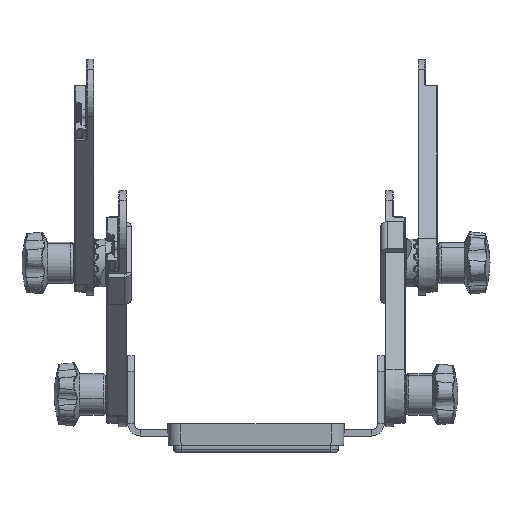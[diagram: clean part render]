
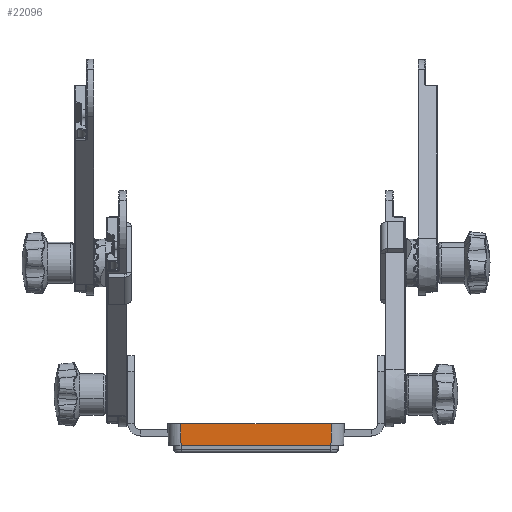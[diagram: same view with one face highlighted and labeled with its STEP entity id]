
A CAD part, front view. The second image highlights one B-rep face of the part: STEP entity #22096.
In plain terms, the highlighted planar face has unit normal (0, -1, -0.018).
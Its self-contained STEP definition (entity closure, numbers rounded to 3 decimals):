
#2856 = LINE ( 'NONE', #20108, #33702 ) ;
#9669 = EDGE_CURVE ( 'NONE', #48097, #70745, #28018, .T. ) ;
#16558 = VERTEX_POINT ( 'NONE', #51509 ) ;
#18184 = CARTESIAN_POINT ( 'NONE',  ( -23.383, -37.382, 2.25 ) ) ;
#18476 = DIRECTION ( 'NONE',  ( 0., -1., -0.017 ) ) ;
#20108 = CARTESIAN_POINT ( 'NONE',  ( -27.5, -37.5, 9. ) ) ;
#21309 = CARTESIAN_POINT ( 'NONE',  ( -23.502, -37.501, 9.07 ) ) ;
#22096 = ADVANCED_FACE ( 'NONE', ( #55152 ), #73886, .T. ) ;
#26096 = DIRECTION ( 'NONE',  ( 0.017, -0.017, 1. ) ) ;
#28018 = LINE ( 'NONE', #21309, #62891 ) ;
#32195 = AXIS2_PLACEMENT_3D ( 'NONE', #55477, #18476, #61707 ) ;
#33702 = VECTOR ( 'NONE', #38964, 1000. ) ;
#34727 = DIRECTION ( 'NONE',  ( -1., 0., 0. ) ) ;
#37021 = EDGE_CURVE ( 'NONE', #62132, #70745, #69047, .T. ) ;
#38964 = DIRECTION ( 'NONE',  ( 1., 0., 0. ) ) ;
#41868 = EDGE_CURVE ( 'NONE', #62132, #16558, #75207, .T. ) ;
#42283 = VECTOR ( 'NONE', #26096, 1000. ) ;
#43574 = EDGE_LOOP ( 'NONE', ( #55523, #70218, #56843, #65709 ) ) ;
#48097 = VERTEX_POINT ( 'NONE', #71316 ) ;
#51509 = CARTESIAN_POINT ( 'NONE',  ( 23.501, -37.5, 9. ) ) ;
#52420 = CARTESIAN_POINT ( 'NONE',  ( 23.383, -37.382, 2.25 ) ) ;
#52569 = VECTOR ( 'NONE', #34727, 1000. ) ;
#55152 = FACE_OUTER_BOUND ( 'NONE', #43574, .T. ) ;
#55477 = CARTESIAN_POINT ( 'NONE',  ( -27.5, -37.5, 9. ) ) ;
#55523 = ORIENTED_EDGE ( 'NONE', *, *, #37021, .F. ) ;
#56843 = ORIENTED_EDGE ( 'NONE', *, *, #63336, .F. ) ;
#61707 = DIRECTION ( 'NONE',  ( 0., 0.017, -1. ) ) ;
#62132 = VERTEX_POINT ( 'NONE', #52420 ) ;
#62891 = VECTOR ( 'NONE', #71026, 1000. ) ;
#63135 = CARTESIAN_POINT ( 'NONE',  ( 23.485, -37.484, 8.11 ) ) ;
#63336 = EDGE_CURVE ( 'NONE', #48097, #16558, #2856, .T. ) ;
#65709 = ORIENTED_EDGE ( 'NONE', *, *, #9669, .T. ) ;
#69047 = LINE ( 'NONE', #71789, #52569 ) ;
#70218 = ORIENTED_EDGE ( 'NONE', *, *, #41868, .T. ) ;
#70745 = VERTEX_POINT ( 'NONE', #18184 ) ;
#71026 = DIRECTION ( 'NONE',  ( 0.017, 0.017, -1. ) ) ;
#71316 = CARTESIAN_POINT ( 'NONE',  ( -23.501, -37.5, 9. ) ) ;
#71789 = CARTESIAN_POINT ( 'NONE',  ( -27.5, -37.382, 2.25 ) ) ;
#73886 = PLANE ( 'NONE',  #32195 ) ;
#75207 = LINE ( 'NONE', #63135, #42283 ) ;
